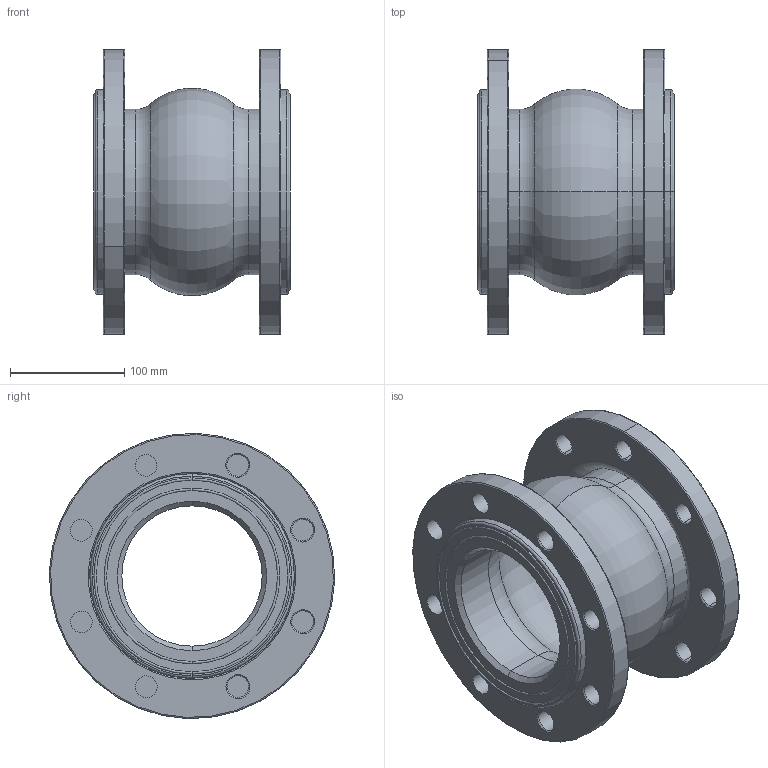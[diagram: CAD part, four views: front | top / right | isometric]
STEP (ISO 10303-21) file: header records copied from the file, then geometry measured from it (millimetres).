
FILE_DESCRIPTION (( 'STEP AP203' ), '1' );
FILE_NAME ('DN125 PN16.STEP', '2026-07-16T06:18:27', ( 'Windows 蚚誧' ), ( '' ), 'SwSTEP 2.0', 'SolidWorks 2018', '' );
FILE_SCHEMA (( 'CONFIG_CONTROL_DESIGN' ));
Length unit declared in the file: millimetre
Products named in the file (3): DN125; DN125 PN16
Assembly tree (3 placements, depth 2):
  DN125 PN16
    DN125
    DN125 PN16  x2
Bounding box: 172 x 250 x 250 mm (x, y, z)
Volume: 2181455.5 mm3; surface area: 411913.5 mm2
Topology: 3 solids, 3 shells, 198 faces, 428 edges, 248 vertices
Faces by surface type: cylinder 64, torus 64, cone 52, plane 18
Entity records: 4013 total; most frequent: DIRECTION 780, CARTESIAN_POINT 588, ORIENTED_EDGE 568, AXIS2_PLACEMENT_3D 356, EDGE_CURVE 284, CIRCLE 216, EDGE_LOOP 164, VERTEX_POINT 164
